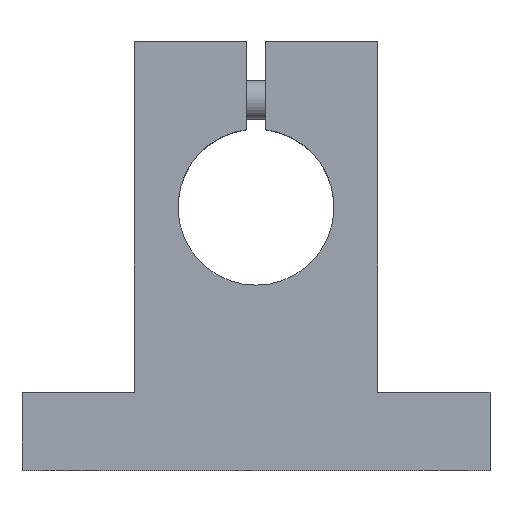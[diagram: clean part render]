
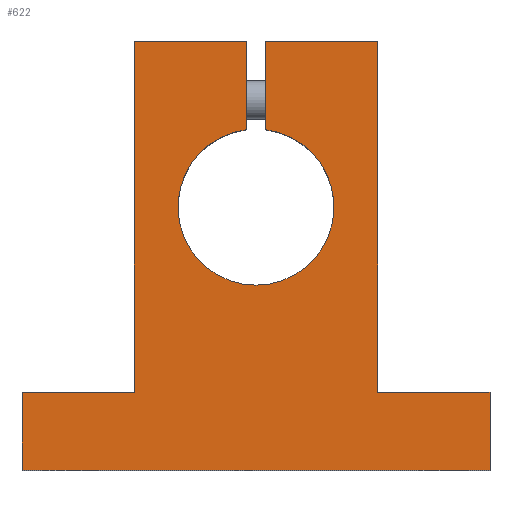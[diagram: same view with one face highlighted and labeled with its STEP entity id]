
A CAD part, top view. The second image highlights one B-rep face of the part: STEP entity #622.
In plain terms, the highlighted planar face has unit normal (0, 0, 1).
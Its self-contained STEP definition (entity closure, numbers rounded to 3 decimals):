
#14 = VERTEX_POINT ( 'NONE', #488 ) ;
#17 = CARTESIAN_POINT ( 'NONE',  ( 24., -27., 0. ) ) ;
#61 = FACE_OUTER_BOUND ( 'NONE', #621, .T. ) ;
#65 = LINE ( 'NONE', #933, #321 ) ;
#66 = EDGE_CURVE ( 'NONE', #426, #358, #438, .T. ) ;
#75 = CARTESIAN_POINT ( 'NONE',  ( -1., 7.937, 0. ) ) ;
#80 = CARTESIAN_POINT ( 'NONE',  ( 0., -8., 0. ) ) ;
#84 = AXIS2_PLACEMENT_3D ( 'NONE', #169, #863, #256 ) ;
#85 = LINE ( 'NONE', #600, #186 ) ;
#97 = EDGE_CURVE ( 'NONE', #650, #704, #340, .T. ) ;
#125 = EDGE_CURVE ( 'NONE', #1092, #426, #423, .T. ) ;
#150 = CARTESIAN_POINT ( 'NONE',  ( -24., -19., 0. ) ) ;
#168 = CARTESIAN_POINT ( 'NONE',  ( 0., 0., 0. ) ) ;
#169 = CARTESIAN_POINT ( 'NONE',  ( 0., 0., 0. ) ) ;
#186 = VECTOR ( 'NONE', #1039, 1000. ) ;
#201 = CARTESIAN_POINT ( 'NONE',  ( 24., -19., 0. ) ) ;
#248 = LINE ( 'NONE', #597, #865 ) ;
#250 = PLANE ( 'NONE',  #1076 ) ;
#254 = CARTESIAN_POINT ( 'NONE',  ( 0., 0., 0. ) ) ;
#256 = DIRECTION ( 'NONE',  ( 1., 0., 0. ) ) ;
#259 = CARTESIAN_POINT ( 'NONE',  ( -12.5, 17., 0. ) ) ;
#271 = VERTEX_POINT ( 'NONE', #840 ) ;
#279 = VECTOR ( 'NONE', #1127, 1000. ) ;
#289 = CARTESIAN_POINT ( 'NONE',  ( 1., 17., 0. ) ) ;
#290 = LINE ( 'NONE', #370, #369 ) ;
#298 = CARTESIAN_POINT ( 'NONE',  ( -24., -27., 0. ) ) ;
#302 = ORIENTED_EDGE ( 'NONE', *, *, #505, .T. ) ;
#313 = EDGE_CURVE ( 'NONE', #271, #650, #416, .T. ) ;
#321 = VECTOR ( 'NONE', #413, 1000. ) ;
#330 = DIRECTION ( 'NONE',  ( 0., -1., 0. ) ) ;
#331 = EDGE_CURVE ( 'NONE', #1022, #1054, #65, .T. ) ;
#337 = EDGE_CURVE ( 'NONE', #830, #427, #768, .T. ) ;
#340 = CIRCLE ( 'NONE', #84, 8. ) ;
#341 = CARTESIAN_POINT ( 'NONE',  ( 24., -27., 0. ) ) ;
#344 = LINE ( 'NONE', #973, #774 ) ;
#345 = DIRECTION ( 'NONE',  ( 0., 0., -1. ) ) ;
#358 = VERTEX_POINT ( 'NONE', #150 ) ;
#361 = VERTEX_POINT ( 'NONE', #518 ) ;
#363 = DIRECTION ( 'NONE',  ( 0., 1., 0. ) ) ;
#369 = VECTOR ( 'NONE', #363, 1000. ) ;
#370 = CARTESIAN_POINT ( 'NONE',  ( 12.5, -19., 0. ) ) ;
#375 = CARTESIAN_POINT ( 'NONE',  ( 12.5, 17., 0. ) ) ;
#378 = EDGE_CURVE ( 'NONE', #704, #361, #248, .T. ) ;
#388 = VECTOR ( 'NONE', #330, 1000. ) ;
#412 = VECTOR ( 'NONE', #542, 1000. ) ;
#413 = DIRECTION ( 'NONE',  ( -1., 0., 0. ) ) ;
#416 = CIRCLE ( 'NONE', #695, 8. ) ;
#423 = LINE ( 'NONE', #1029, #482 ) ;
#426 = VERTEX_POINT ( 'NONE', #1071 ) ;
#427 = VERTEX_POINT ( 'NONE', #457 ) ;
#438 = LINE ( 'NONE', #776, #279 ) ;
#449 = ORIENTED_EDGE ( 'NONE', *, *, #97, .T. ) ;
#457 = CARTESIAN_POINT ( 'NONE',  ( 24., -19., 0. ) ) ;
#462 = EDGE_CURVE ( 'NONE', #14, #1022, #290, .T. ) ;
#482 = VECTOR ( 'NONE', #953, 1000. ) ;
#484 = CARTESIAN_POINT ( 'NONE',  ( -24., -27., 0. ) ) ;
#488 = CARTESIAN_POINT ( 'NONE',  ( 12.5, -19., 0. ) ) ;
#490 = ORIENTED_EDGE ( 'NONE', *, *, #694, .T. ) ;
#496 = EDGE_CURVE ( 'NONE', #427, #14, #886, .T. ) ;
#505 = EDGE_CURVE ( 'NONE', #593, #830, #727, .T. ) ;
#513 = ORIENTED_EDGE ( 'NONE', *, *, #66, .T. ) ;
#518 = CARTESIAN_POINT ( 'NONE',  ( -1., 17., 0. ) ) ;
#542 = DIRECTION ( 'NONE',  ( -1., 0., 0. ) ) ;
#553 = VECTOR ( 'NONE', #773, 1000. ) ;
#577 = ORIENTED_EDGE ( 'NONE', *, *, #331, .T. ) ;
#593 = VERTEX_POINT ( 'NONE', #484 ) ;
#597 = CARTESIAN_POINT ( 'NONE',  ( -1., 8.5, 0. ) ) ;
#600 = CARTESIAN_POINT ( 'NONE',  ( 12.5, 17., 0. ) ) ;
#609 = DIRECTION ( 'NONE',  ( 0., -1., 0. ) ) ;
#621 = EDGE_LOOP ( 'NONE', ( #490, #1101, #449, #804, #791, #1031, #513, #970, #302, #1047, #1061, #826, #577 ) ) ;
#622 = ADVANCED_FACE ( 'NONE', ( #61 ), #250, .T. ) ;
#644 = DIRECTION ( 'NONE',  ( 1., 0., 0. ) ) ;
#650 = VERTEX_POINT ( 'NONE', #80 ) ;
#694 = EDGE_CURVE ( 'NONE', #1054, #271, #864, .T. ) ;
#695 = AXIS2_PLACEMENT_3D ( 'NONE', #168, #345, #762 ) ;
#696 = EDGE_CURVE ( 'NONE', #361, #1092, #85, .T. ) ;
#704 = VERTEX_POINT ( 'NONE', #75 ) ;
#727 = LINE ( 'NONE', #298, #1098 ) ;
#760 = DIRECTION ( 'NONE',  ( 0., 0., 1. ) ) ;
#762 = DIRECTION ( 'NONE',  ( 1., 0., 0. ) ) ;
#768 = LINE ( 'NONE', #341, #553 ) ;
#773 = DIRECTION ( 'NONE',  ( 0., 1., 0. ) ) ;
#774 = VECTOR ( 'NONE', #609, 1000. ) ;
#776 = CARTESIAN_POINT ( 'NONE',  ( -12.5, -19., 0. ) ) ;
#791 = ORIENTED_EDGE ( 'NONE', *, *, #696, .T. ) ;
#804 = ORIENTED_EDGE ( 'NONE', *, *, #378, .T. ) ;
#826 = ORIENTED_EDGE ( 'NONE', *, *, #462, .T. ) ;
#830 = VERTEX_POINT ( 'NONE', #17 ) ;
#840 = CARTESIAN_POINT ( 'NONE',  ( 1., 7.937, 0. ) ) ;
#842 = CARTESIAN_POINT ( 'NONE',  ( 1., 0., 0. ) ) ;
#863 = DIRECTION ( 'NONE',  ( 0., 0., -1. ) ) ;
#864 = LINE ( 'NONE', #842, #388 ) ;
#865 = VECTOR ( 'NONE', #945, 1000. ) ;
#886 = LINE ( 'NONE', #201, #412 ) ;
#933 = CARTESIAN_POINT ( 'NONE',  ( 12.5, 17., 0. ) ) ;
#942 = DIRECTION ( 'NONE',  ( 1., 0., 0. ) ) ;
#945 = DIRECTION ( 'NONE',  ( 0., 1., 0. ) ) ;
#953 = DIRECTION ( 'NONE',  ( 0., -1., 0. ) ) ;
#970 = ORIENTED_EDGE ( 'NONE', *, *, #1108, .T. ) ;
#973 = CARTESIAN_POINT ( 'NONE',  ( -24., -19., 0. ) ) ;
#1022 = VERTEX_POINT ( 'NONE', #375 ) ;
#1029 = CARTESIAN_POINT ( 'NONE',  ( -12.5, 17., 0. ) ) ;
#1031 = ORIENTED_EDGE ( 'NONE', *, *, #125, .T. ) ;
#1039 = DIRECTION ( 'NONE',  ( -1., 0., 0. ) ) ;
#1047 = ORIENTED_EDGE ( 'NONE', *, *, #337, .T. ) ;
#1054 = VERTEX_POINT ( 'NONE', #289 ) ;
#1061 = ORIENTED_EDGE ( 'NONE', *, *, #496, .T. ) ;
#1071 = CARTESIAN_POINT ( 'NONE',  ( -12.5, -19., 0. ) ) ;
#1076 = AXIS2_PLACEMENT_3D ( 'NONE', #254, #760, #942 ) ;
#1092 = VERTEX_POINT ( 'NONE', #259 ) ;
#1098 = VECTOR ( 'NONE', #644, 1000. ) ;
#1101 = ORIENTED_EDGE ( 'NONE', *, *, #313, .T. ) ;
#1108 = EDGE_CURVE ( 'NONE', #358, #593, #344, .T. ) ;
#1127 = DIRECTION ( 'NONE',  ( -1., 0., 0. ) ) ;
